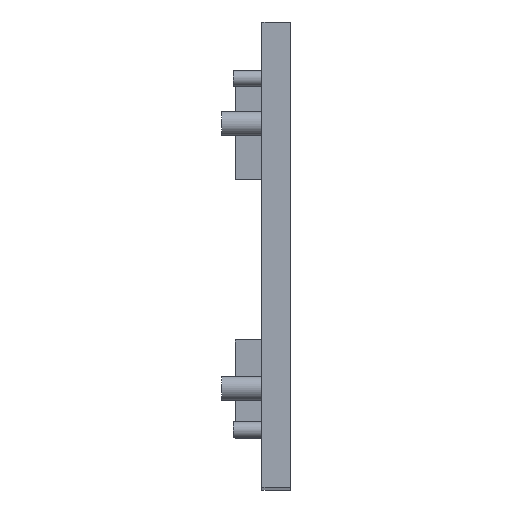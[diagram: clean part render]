
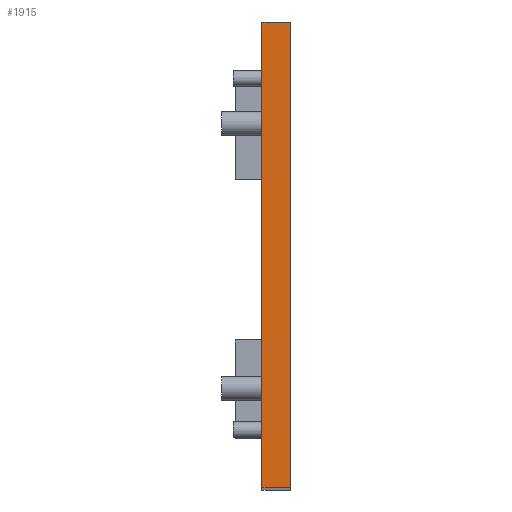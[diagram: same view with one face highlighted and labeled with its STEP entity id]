
A CAD part, top view. The second image highlights one B-rep face of the part: STEP entity #1915.
In plain terms, the highlighted planar face has unit normal (0, 0, 1).
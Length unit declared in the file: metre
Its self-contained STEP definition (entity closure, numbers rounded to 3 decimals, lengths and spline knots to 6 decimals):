
#570=ORIENTED_EDGE('',*,*,#601,.T.);
#571=ORIENTED_EDGE('',*,*,#726,.T.);
#572=ORIENTED_EDGE('',*,*,#712,.F.);
#573=ORIENTED_EDGE('',*,*,#722,.F.);
#601=EDGE_CURVE('',#842,#841,#1015,.T.);
#712=EDGE_CURVE('',#947,#948,#1086,.T.);
#722=EDGE_CURVE('',#842,#947,#1096,.T.);
#726=EDGE_CURVE('',#841,#948,#1100,.T.);
#841=VERTEX_POINT('',#2638);
#842=VERTEX_POINT('',#2640);
#947=VERTEX_POINT('',#2856);
#948=VERTEX_POINT('',#2858);
#1015=LINE('',#2639,#1195);
#1086=LINE('',#2857,#1266);
#1096=LINE('',#2876,#1276);
#1100=LINE('',#2882,#1280);
#1195=VECTOR('',#2128,1.);
#1266=VECTOR('',#2281,1.);
#1276=VECTOR('',#2293,1.);
#1280=VECTOR('',#2301,1.);
#1547=EDGE_LOOP('',(#570,#571,#572,#573));
#1741=FACE_BOUND('',#1547,.T.);
#1819=PLANE('',#2088);
#1915=ADVANCED_FACE('',(#1741),#1819,.T.);
#2088=AXIS2_PLACEMENT_3D('',#3111,#2585,#2586);
#2128=DIRECTION('',(0.,-1.,0.));
#2281=DIRECTION('',(0.,-1.,0.));
#2293=DIRECTION('',(1.,0.,0.));
#2301=DIRECTION('',(1.,0.,0.));
#2585=DIRECTION('',(0.,0.,1.));
#2586=DIRECTION('',(1.,0.,0.));
#2638=CARTESIAN_POINT('',(-0.06358,-0.239173,0.256571));
#2639=CARTESIAN_POINT('',(-0.06358,-0.222439,0.256571));
#2640=CARTESIAN_POINT('',(-0.06358,-0.176992,0.256571));
#2856=CARTESIAN_POINT('',(-0.059793,-0.176992,0.256571));
#2857=CARTESIAN_POINT('',(-0.059793,-0.222439,0.256571));
#2858=CARTESIAN_POINT('',(-0.059793,-0.239173,0.256571));
#2876=CARTESIAN_POINT('',(-0.061687,-0.176992,0.256571));
#2882=CARTESIAN_POINT('',(-0.061687,-0.239173,0.256571));
#3111=CARTESIAN_POINT('',(-0.061687,-0.222439,0.256571));
